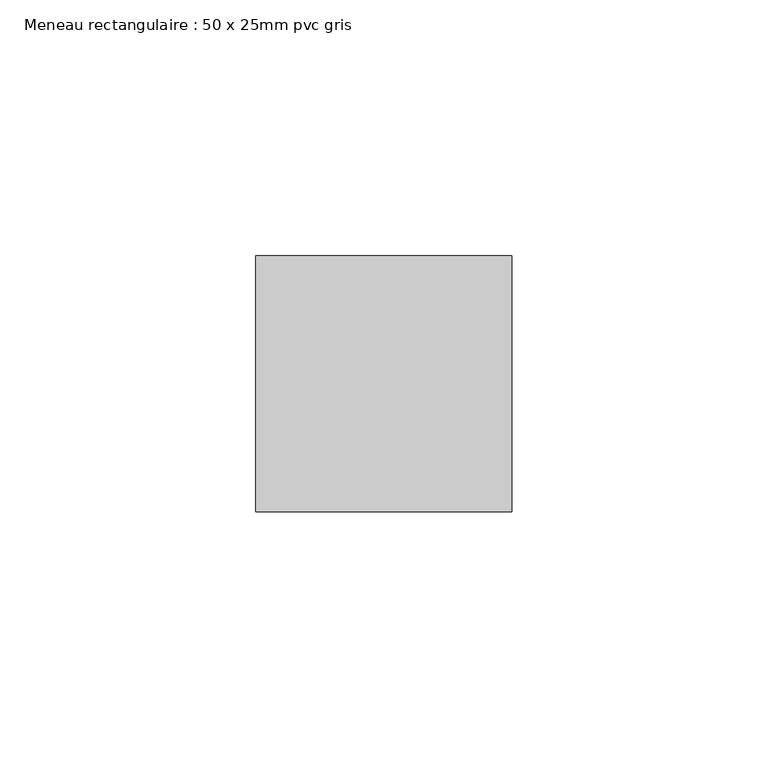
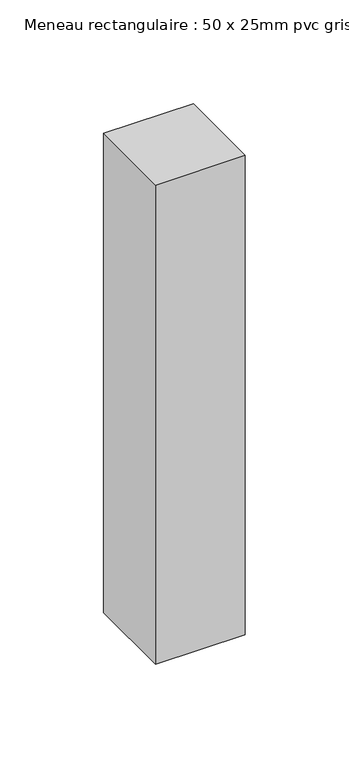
"""IFC4 building model written with IfcOpenShell, lengths in millimetres: member geometry, Meneau rectangulaire : 50 x 25mm pvc gris."""

from ifc_helpers import new_model, si_unit, frame, origin, place, context, project, spatial, polyline, outline, extrude, source, transform, mapped, element, save


def meneau_rectangulaire_50_x_25mm_pvc_gris_f7dc0172(model_context):
    return source(origin(), model_context, "Body", "SweptSolid", [
        extrude(outline(polyline([(0.0, 0.0), (0.0, -50.0), (-50.0, -50.0), (-50.0, 0.0), (0.0, 0.0)])), frame((0.0, 0.0, -282.0), z_axis=(0.0, 0.0, 1.0), x_axis=(1.0, 0.0, 0.0)), (0.0, 0.0, 1.0), 282.0),
    ])


if __name__ == "__main__":
    model = new_model("IFC4")
    model_context = context("Model", 3, world=origin())
    ifc_project = project(units=[si_unit("LENGTHUNIT", "METRE", prefix="MILLI")], contexts=[model_context])
    site = spatial("IfcSite", under=ifc_project)
    building = spatial("IfcBuilding", under=site)
    placement = place(None, origin())
    meneau_rectangulaire_50_x_25mm_pvc_gris_shape = meneau_rectangulaire_50_x_25mm_pvc_gris_f7dc0172(model_context)
    element("IfcMember", 1, ObjectType="Meneau rectangulaire : 50 x 25mm pvc gris", at=placement, inside=building, context=model_context, shape_type="MappedRepresentation", body=[
        mapped(meneau_rectangulaire_50_x_25mm_pvc_gris_shape, transform((0.0, 0.0, 0.0), x_axis=(1.0, 0.0, 0.0), y_axis=(0.0, 1.0, 0.0), z_axis=(0.0, 0.0, 1.0))),
    ])
    save(model, "model.ifc")
